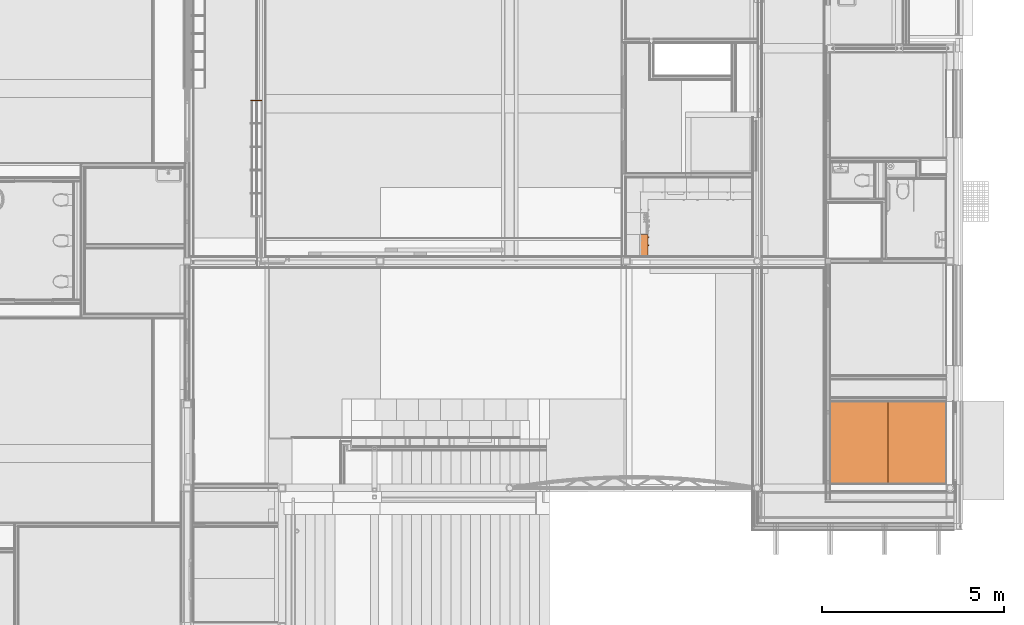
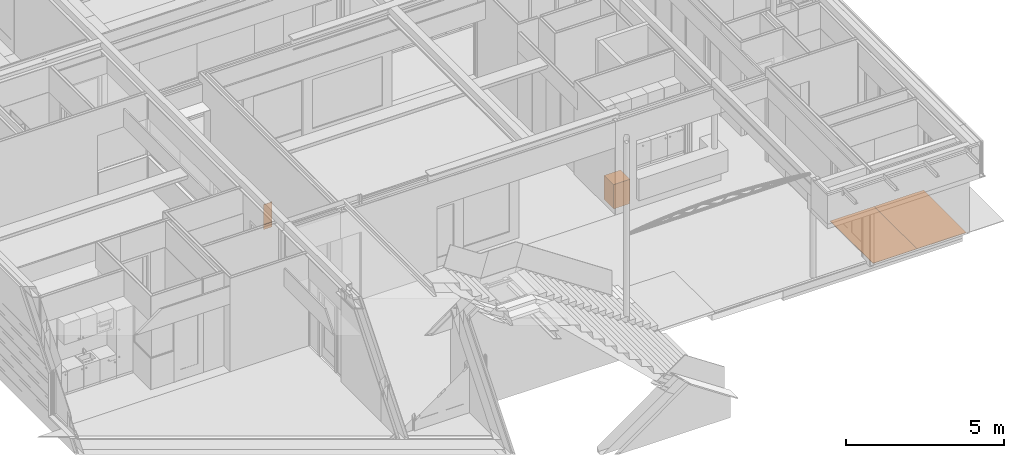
# One storey, part 152 of 165: 4 proxies.
"""IFC2X3 building model written with IfcOpenShell, lengths in millimetres."""

from ifc_helpers import new_model, entity, si_unit, converted_unit, derived_unit, money_unit, direction, frame, origin_with_axes, place, context, subcontext, project, spatial, faceted_brep, material, type_object, element, save


model = new_model("IFC2X3")

# Units and contexts
model_context = context("Model", 3, precision=0.01, world=origin_with_axes(), true_north=direction((0.0, 1.0)))
body_context = subcontext(model_context, "Body", "Model", "MODEL_VIEW")
ifc_project = project(units=[si_unit("LENGTHUNIT", "METRE", prefix="MILLI"), si_unit("AREAUNIT", "SQUARE_METRE"), si_unit("VOLUMEUNIT", "CUBIC_METRE"), converted_unit("PLANEANGLEUNIT", "DEGREE", entity("IfcPlaneAngleMeasure", 0.0174532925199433), si_unit("PLANEANGLEUNIT", "RADIAN"), dimensions=[0, 0, 0, 0, 0, 0, 0]), money_unit("EUR"), converted_unit("TIMEUNIT", "Year", entity("IfcTimeMeasure", 31556926.0), si_unit("TIMEUNIT", "SECOND"), dimensions=[0, 0, 1, 0, 0, 0, 0]), si_unit("MASSUNIT", "GRAM", prefix="KILO"), si_unit("THERMODYNAMICTEMPERATUREUNIT", "DEGREE_CELSIUS"), si_unit("LUMINOUSINTENSITYUNIT", "LUMEN"), si_unit("ENERGYUNIT", "JOULE", prefix="MEGA"), derived_unit("THERMALCONDUCTANCEUNIT", [(si_unit("POWERUNIT", "WATT"), 1), (si_unit("LENGTHUNIT", "METRE"), -1), (si_unit("THERMODYNAMICTEMPERATUREUNIT", "KELVIN"), -1)]), derived_unit("SPECIFICHEATCAPACITYUNIT", [(si_unit("ENERGYUNIT", "JOULE"), 1), (si_unit("MASSUNIT", "GRAM", prefix="KILO"), -1), (si_unit("THERMODYNAMICTEMPERATUREUNIT", "KELVIN"), -1)]), derived_unit("MASSDENSITYUNIT", [(si_unit("MASSUNIT", "GRAM", prefix="KILO"), 1), (si_unit("VOLUMEUNIT", "CUBIC_METRE"), -1)])], contexts=[model_context])

# Site, building, storey
site_placement = place(None, origin_with_axes())
site = spatial("IfcSite", under=ifc_project, at=site_placement, Name="Site", CompositionType="ELEMENT")
building_placement = place(site_placement, origin_with_axes())
building = spatial("IfcBuilding", under=site, at=building_placement, Name="Naam gebouw", CompositionType="ELEMENT")
storey_placement = place(building_placement, origin_with_axes())
storey = spatial("IfcBuildingStorey", under=building, at=storey_placement, Name="Begane grond", CompositionType="ELEMENT", Elevation=0.0)

# Proxies
ifc_material_1 = material(Name="Hout AFW")
building_element_proxy_type_1 = type_object("IfcBuildingElementProxyType", Name="Hout AFW 18", PredefinedType="NOTDEFINED")
proxy_1_placement = place(storey_placement, frame((10882.00000000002, 15235.00003229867, 200.0000000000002), z_axis=(0.0, 0.0, 1.0), x_axis=(-1.0, 0.0, 0.0)))
element("IfcBuildingElementProxy", 1, at=proxy_1_placement, inside=storey, type_object=building_element_proxy_type_1, material=ifc_material_1, Name="i HOUT_Wand-x", context=body_context, shape_type="Brep", body=[
    faceted_brep([(282.0, 0.0, 18.00000000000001), (282.0, 0.0, 200.0), (-18.00000000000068, 0.0, 200.0), (-18.00000000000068, 0.0, 18.00000000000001), (282.0, 18.00000000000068, 18.00000000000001), (282.0, 18.00000000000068, 200.0), (-18.00000000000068, 18.00000000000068, 200.0), (-18.00000000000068, 18.00000000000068, 18.00000000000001)], [[[0, 1, 2, 3]], [[4, 5, 1, 0]], [[5, 6, 2, 1]], [[3, 2, 6, 7]], [[4, 0, 3, 7]], [[7, 6, 5, 4]]]),
    faceted_brep([(-18.00000000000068, 18.00000000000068, 1000.0), (-18.00000000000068, 18.00000000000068, 218.0), (-18.00000000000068, 0.0, 218.0), (-18.00000000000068, 0.0, 1000.0), (282.0, 18.00000000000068, 982.0), (282.0, 18.00000000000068, 218.0), (0.0, 18.00000000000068, 1000.0), (0.0, 18.00000000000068, 982.0), (282.0, 0.0, 218.0), (282.0, 0.0, 982.0), (0.0, 0.0, 982.0), (0.0, 0.0, 1000.0)], [[[0, 1, 2, 3]], [[4, 5, 1, 0, 6, 7]], [[5, 8, 2, 1]], [[3, 2, 8, 9, 10, 11]], [[3, 11, 6, 0]], [[9, 8, 5, 4]], [[7, 6, 11, 10]], [[7, 10, 9, 4]]]),
])
building_element_proxy_type_2 = type_object("IfcBuildingElementProxyType", Name="Onderkast recht 26", PredefinedType="NOTDEFINED")
proxy_2_placement = place(storey_placement, frame((20900.00167438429, 10944.99881672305, 0.0), z_axis=(0.0, 0.0, 1.0), x_axis=(0.0, 1.0, 0.0)))
element("IfcBuildingElementProxy", 2, at=proxy_2_placement, inside=storey, type_object=building_element_proxy_type_2, Name="_Leeg", context=body_context, shape_type="Brep", body=[
    faceted_brep([(0.0, -600.0, 900.0), (600.0, -600.0, 900.0), (600.0, -600.0, 935.0), (0.0, -600.0, 935.0), (0.0, 0.0, 900.0), (600.0, 0.0, 900.0), (600.0, 0.0, 935.0), (0.0, 0.0, 935.0)], [[[0, 1, 2, 3]], [[0, 4, 5, 1]], [[1, 5, 6, 2]], [[3, 2, 6, 7]], [[4, 0, 3, 7]], [[5, 4, 7, 6]]]),
    faceted_brep([(18.0, -582.0, 420.5), (582.0, -582.0, 420.5), (582.0, -582.0, 438.5), (18.0, -582.0, 438.5), (18.0, -18.0, 420.5), (582.0, -18.0, 420.5), (582.0, -18.0, 438.5), (18.0, -18.0, 438.5)], [[[0, 1, 2, 3]], [[0, 4, 5, 1]], [[1, 5, 6, 2]], [[3, 2, 6, 7]], [[4, 0, 3, 7]], [[5, 4, 7, 6]]]),
    faceted_brep([(18.0, -582.0, 741.0), (582.0, -582.0, 741.0), (582.0, -582.0, 759.0), (18.0, -582.0, 759.0), (18.0, -18.0, 741.0), (582.0, -18.0, 741.0), (582.0, -18.0, 759.0), (18.0, -18.0, 759.0)], [[[0, 1, 2, 3]], [[0, 4, 5, 1]], [[1, 5, 6, 2]], [[3, 2, 6, 7]], [[4, 0, 3, 7]], [[5, 4, 7, 6]]]),
    faceted_brep([(577.0, -582.0, 764.0), (23.0, -582.0, 764.0), (23.0, -18.00000000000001, 764.0), (577.0, -18.00000000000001, 764.0), (577.0, -582.0, 774.0), (23.0, -582.0, 774.0), (23.0, -18.00000000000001, 774.0), (577.0, -18.00000000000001, 774.0)], [[[0, 1, 2, 3]], [[1, 0, 4, 5]], [[2, 1, 5, 6]], [[3, 2, 6, 7]], [[0, 3, 7, 4]], [[5, 4, 7, 6]]]),
    faceted_brep([(43.0, -582.0, 774.0), (23.0, -582.0, 774.0), (23.0, -18.00000000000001, 774.0), (43.0, -18.00000000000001, 774.0), (43.0, -582.0, 877.0000000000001), (23.0, -582.0, 877.0000000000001), (23.0, -18.00000000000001, 877.0000000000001), (43.0, -18.00000000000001, 877.0000000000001)], [[[0, 1, 2, 3]], [[1, 0, 4, 5]], [[2, 1, 5, 6]], [[3, 2, 6, 7]], [[0, 3, 7, 4]], [[5, 4, 7, 6]]]),
    faceted_brep([(577.0, -582.0, 774.0), (556.9999999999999, -582.0, 774.0), (556.9999999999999, -18.00000000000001, 774.0), (577.0, -18.00000000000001, 774.0), (577.0, -582.0, 877.0000000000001), (556.9999999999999, -582.0, 877.0000000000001), (556.9999999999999, -18.00000000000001, 877.0000000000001), (577.0, -18.00000000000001, 877.0000000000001)], [[[0, 1, 2, 3]], [[1, 0, 4, 5]], [[2, 1, 5, 6]], [[3, 2, 6, 7]], [[0, 3, 7, 4]], [[5, 4, 7, 6]]]),
    faceted_brep([(556.9999999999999, -33.00000000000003, 774.0), (43.0, -33.00000000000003, 774.0), (43.0, -23.00000000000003, 774.0), (556.9999999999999, -23.00000000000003, 774.0), (556.9999999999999, -33.00000000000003, 877.0000000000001), (43.0, -33.00000000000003, 877.0000000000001), (43.0, -23.00000000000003, 877.0000000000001), (556.9999999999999, -23.00000000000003, 877.0000000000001)], [[[0, 1, 2, 3]], [[1, 0, 4, 5]], [[2, 1, 5, 6]], [[3, 2, 6, 7]], [[0, 3, 7, 4]], [[5, 4, 7, 6]]]),
    faceted_brep([(533.1641574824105, -600.0, 668.2626863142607), (532.6227758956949, -600.0, 666.2422227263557), (531.7387692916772, -600.0, 664.3464644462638), (530.5389977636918, -600.0, 662.6330131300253), (529.0599157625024, -600.0, 661.153931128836), (527.346464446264, -600.0, 659.9541596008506), (525.4507061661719, -600.0, 659.0701529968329), (523.4302425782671, -600.0, 658.5287714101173), (521.346464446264, -600.0, 658.3464644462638), (519.2626863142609, -600.0, 658.5287714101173), (517.242222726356, -600.0, 659.0701529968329), (515.346464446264, -600.0, 659.9541596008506), (513.6330131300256, -600.0, 661.153931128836), (512.1539311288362, -600.0, 662.6330131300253), (510.9541596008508, -600.0, 664.3464644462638), (510.0701529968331, -600.0, 666.2422227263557), (509.5287714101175, -600.0, 668.2626863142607), (509.346464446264, -600.0, 670.3464644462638), (509.5287714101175, -600.0, 672.4302425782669), (510.0701529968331, -600.0, 674.4507061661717), (510.9541596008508, -600.0, 676.3464644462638), (512.1539311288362, -600.0, 678.0599157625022), (513.6330131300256, -600.0, 679.5389977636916), (515.346464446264, -600.0, 680.738769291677), (517.242222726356, -600.0, 681.6227758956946), (519.2626863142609, -600.0, 682.1641574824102), (521.346464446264, -600.0, 682.3464644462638), (523.4302425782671, -600.0, 682.1641574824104), (525.4507061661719, -600.0, 681.6227758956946), (527.346464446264, -600.0, 680.738769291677), (529.0599157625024, -600.0, 679.5389977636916), (530.5389977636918, -600.0, 678.0599157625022), (531.7387692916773, -600.0, 676.3464644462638), (532.6227758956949, -600.0, 674.4507061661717), (533.1641574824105, -600.0, 672.4302425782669), (533.346464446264, -600.0, 670.3464644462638), (533.1641574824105, -620.0, 668.2626863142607), (532.6227758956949, -620.0, 666.2422227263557), (531.7387692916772, -620.0, 664.3464644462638), (530.5389977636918, -620.0, 662.6330131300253), (529.0599157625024, -620.0, 661.153931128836), (527.346464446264, -620.0, 659.9541596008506), (525.4507061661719, -620.0, 659.0701529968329), (523.4302425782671, -620.0, 658.5287714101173), (521.346464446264, -620.0, 658.3464644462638), (519.2626863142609, -620.0, 658.5287714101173), (517.242222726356, -620.0, 659.0701529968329), (515.346464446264, -620.0, 659.9541596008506), (513.6330131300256, -620.0, 661.153931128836), (512.1539311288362, -620.0, 662.6330131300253), (510.9541596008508, -620.0, 664.3464644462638), (510.0701529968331, -620.0, 666.2422227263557), (509.5287714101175, -620.0, 668.2626863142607), (509.346464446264, -620.0, 670.3464644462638), (509.5287714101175, -620.0, 672.4302425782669), (510.0701529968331, -620.0, 674.4507061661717), (510.9541596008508, -620.0, 676.3464644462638), (512.1539311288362, -620.0, 678.0599157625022), (513.6330131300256, -620.0, 679.5389977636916), (515.346464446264, -620.0, 680.738769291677), (517.242222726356, -620.0, 681.6227758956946), (519.2626863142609, -620.0, 682.1641574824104), (521.346464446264, -620.0, 682.3464644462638), (523.4302425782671, -620.0, 682.1641574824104), (525.4507061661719, -620.0, 681.6227758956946), (527.346464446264, -620.0, 680.738769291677), (529.0599157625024, -620.0, 679.5389977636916), (530.5389977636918, -620.0, 678.0599157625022), (531.7387692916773, -620.0, 676.3464644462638), (532.6227758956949, -620.0, 674.4507061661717), (533.1641574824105, -620.0, 672.4302425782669), (533.346464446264, -620.0, 670.3464644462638)], [[[0, 1, 2, 3, 4, 5, 6, 7, 8, 9, 10, 11, 12, 13, 14, 15, 16, 17, 18, 19, 20, 21, 22, 23, 24, 25, 26, 27, 28, 29, 30, 31, 32, 33, 34, 35]], [[1, 0, 36, 37]], [[2, 1, 37, 38]], [[3, 2, 38, 39]], [[4, 3, 39, 40]], [[5, 4, 40, 41]], [[6, 5, 41, 42]], [[7, 6, 42, 43]], [[8, 7, 43, 44]], [[9, 8, 44, 45]], [[10, 9, 45, 46]], [[11, 10, 46, 47]], [[12, 11, 47, 48]], [[13, 12, 48, 49]], [[14, 13, 49, 50]], [[15, 14, 50, 51]], [[16, 15, 51, 52]], [[17, 16, 52, 53]], [[18, 17, 53, 54]], [[19, 18, 54, 55]], [[20, 19, 55, 56]], [[21, 20, 56, 57]], [[22, 21, 57, 58]], [[23, 22, 58, 59]], [[24, 23, 59, 60]], [[25, 24, 60, 61]], [[26, 25, 61, 62]], [[27, 26, 62, 63]], [[28, 27, 63, 64]], [[29, 28, 64, 65]], [[30, 29, 65, 66]], [[31, 30, 66, 67]], [[32, 31, 67, 68]], [[33, 32, 68, 69]], [[34, 33, 69, 70]], [[35, 34, 70, 71]], [[0, 35, 71, 36]], [[36, 71, 70, 69, 68, 67, 66, 65, 64, 63, 62, 61, 60, 59, 58, 57, 56, 55, 54, 53, 52, 51, 50, 49, 48, 47, 46, 45, 44, 43, 42, 41, 40, 39, 38, 37]]]),
    faceted_brep([(544.9818505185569, -620.0, 666.1789081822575), (543.8990873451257, -620.0, 662.1379810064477), (542.1310741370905, -620.0, 658.3464644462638), (539.7315310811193, -620.0, 654.9195618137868), (536.7733670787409, -620.0, 651.9613978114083), (533.346464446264, -620.0, 649.5618547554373), (529.5549478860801, -620.0, 647.793841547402), (525.5140207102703, -620.0, 646.7110783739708), (521.346464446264, -620.0, 646.3464644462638), (517.1789081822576, -620.0, 646.7110783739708), (513.137981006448, -620.0, 647.793841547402), (509.346464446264, -620.0, 649.5618547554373), (505.919561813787, -620.0, 651.9613978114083), (502.9613978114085, -620.0, 654.9195618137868), (500.5618547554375, -620.0, 658.3464644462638), (498.7938415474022, -620.0, 662.1379810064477), (497.711078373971, -620.0, 666.1789081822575), (497.346464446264, -620.0, 670.3464644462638), (497.711078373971, -620.0, 674.5140207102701), (498.7938415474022, -620.0, 678.5549478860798), (500.5618547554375, -620.0, 682.3464644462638), (502.9613978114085, -620.0, 685.7733670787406), (505.919561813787, -620.0, 688.7315310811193), (509.346464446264, -620.0, 691.1310741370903), (513.137981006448, -620.0, 692.8990873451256), (517.1789081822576, -620.0, 693.9818505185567), (521.346464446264, -620.0, 694.3464644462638), (525.5140207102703, -620.0, 693.9818505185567), (529.5549478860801, -620.0, 692.8990873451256), (533.346464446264, -620.0, 691.1310741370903), (536.7733670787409, -620.0, 688.7315310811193), (539.7315310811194, -620.0, 685.7733670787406), (542.1310741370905, -620.0, 682.3464644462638), (543.8990873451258, -620.0, 678.5549478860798), (544.9818505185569, -620.0, 674.5140207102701), (545.346464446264, -620.0, 670.3464644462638), (544.9818505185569, -630.0, 666.1789081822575), (543.8990873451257, -630.0, 662.1379810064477), (542.1310741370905, -630.0, 658.3464644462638), (539.7315310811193, -630.0, 654.9195618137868), (536.7733670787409, -630.0, 651.9613978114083), (533.346464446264, -630.0, 649.5618547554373), (529.5549478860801, -630.0, 647.793841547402), (525.5140207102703, -630.0, 646.7110783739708), (521.346464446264, -630.0, 646.3464644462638), (517.1789081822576, -630.0, 646.7110783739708), (513.137981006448, -630.0, 647.793841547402), (509.346464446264, -630.0, 649.5618547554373), (505.919561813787, -630.0, 651.9613978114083), (502.9613978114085, -630.0, 654.9195618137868), (500.5618547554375, -630.0, 658.3464644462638), (498.7938415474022, -630.0, 662.1379810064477), (497.711078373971, -630.0, 666.1789081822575), (497.346464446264, -630.0, 670.3464644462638), (497.711078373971, -630.0, 674.5140207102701), (498.7938415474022, -630.0, 678.5549478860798), (500.5618547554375, -630.0, 682.3464644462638), (502.9613978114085, -630.0, 685.7733670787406), (505.919561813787, -630.0, 688.7315310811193), (509.346464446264, -630.0, 691.1310741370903), (513.137981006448, -630.0, 692.8990873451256), (517.1789081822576, -630.0, 693.9818505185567), (521.346464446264, -630.0, 694.3464644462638), (525.5140207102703, -630.0, 693.9818505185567), (529.5549478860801, -630.0, 692.8990873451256), (533.346464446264, -630.0, 691.1310741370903), (536.7733670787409, -630.0, 688.7315310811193), (539.7315310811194, -630.0, 685.7733670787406), (542.1310741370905, -630.0, 682.3464644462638), (543.8990873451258, -630.0, 678.5549478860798), (544.9818505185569, -630.0, 674.5140207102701), (545.346464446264, -630.0, 670.3464644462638)], [[[0, 1, 2, 3, 4, 5, 6, 7, 8, 9, 10, 11, 12, 13, 14, 15, 16, 17, 18, 19, 20, 21, 22, 23, 24, 25, 26, 27, 28, 29, 30, 31, 32, 33, 34, 35]], [[1, 0, 36, 37]], [[2, 1, 37, 38]], [[3, 2, 38, 39]], [[4, 3, 39, 40]], [[5, 4, 40, 41]], [[6, 5, 41, 42]], [[7, 6, 42, 43]], [[8, 7, 43, 44]], [[9, 8, 44, 45]], [[10, 9, 45, 46]], [[11, 10, 46, 47]], [[12, 11, 47, 48]], [[13, 12, 48, 49]], [[14, 13, 49, 50]], [[15, 14, 50, 51]], [[16, 15, 51, 52]], [[17, 16, 52, 53]], [[18, 17, 53, 54]], [[19, 18, 54, 55]], [[20, 19, 55, 56]], [[21, 20, 56, 57]], [[22, 21, 57, 58]], [[23, 22, 58, 59]], [[24, 23, 59, 60]], [[25, 24, 60, 61]], [[26, 25, 61, 62]], [[27, 26, 62, 63]], [[28, 27, 63, 64]], [[29, 28, 64, 65]], [[30, 29, 65, 66]], [[31, 30, 66, 67]], [[32, 31, 67, 68]], [[33, 32, 68, 69]], [[34, 33, 69, 70]], [[35, 34, 70, 71]], [[0, 35, 71, 36]], [[36, 71, 70, 69, 68, 67, 66, 65, 64, 63, 62, 61, 60, 59, 58, 57, 56, 55, 54, 53, 52, 51, 50, 49, 48, 47, 46, 45, 44, 43, 42, 41, 40, 39, 38, 37]]]),
    faceted_brep([(1.0, -582.0, 101.0), (599.0, -582.0, 101.0), (599.0, -600.0, 101.0), (1.0, -600.0, 101.0), (1.0, -582.0, 749.0), (599.0, -582.0, 749.0), (599.0, -599.9999999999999, 749.0), (1.0, -599.9999999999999, 749.0)], [[[0, 1, 2, 3]], [[0, 4, 5, 1]], [[1, 5, 6, 2]], [[3, 2, 6, 7]], [[4, 0, 3, 7]], [[5, 4, 7, 6]]]),
    faceted_brep([(311.8176930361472, -600.0, 817.916221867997), (311.2763114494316, -600.0, 815.8957582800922), (310.3923048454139, -600.0, 814.0000000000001), (309.1925333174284, -600.0, 812.2865486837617), (307.7134513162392, -600.0, 810.8074666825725), (306.0000000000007, -600.0, 809.607695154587), (304.1042417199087, -600.0, 808.7236885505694), (302.0837781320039, -600.0, 808.1823069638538), (300.0000000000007, -600.0, 808.0000000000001), (297.9162218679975, -600.0, 808.1823069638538), (295.8957582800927, -600.0, 808.7236885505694), (294.0000000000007, -600.0, 809.607695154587), (292.2865486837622, -600.0, 810.8074666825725), (290.807466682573, -600.0, 812.2865486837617), (289.6076951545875, -600.0, 814.0000000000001), (288.7236885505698, -600.0, 815.8957582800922), (288.1823069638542, -600.0, 817.916221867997), (288.0000000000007, -600.0, 820.0000000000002), (288.1823069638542, -600.0, 822.0837781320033), (288.7236885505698, -600.0, 824.1042417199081), (289.6076951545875, -600.0, 826.0000000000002), (290.807466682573, -600.0, 827.7134513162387), (292.2865486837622, -600.0, 829.1925333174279), (294.0000000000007, -600.0, 830.3923048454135), (295.8957582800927, -600.0, 831.2763114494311), (297.9162218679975, -600.0, 831.8176930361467), (300.0000000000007, -600.0, 832.0000000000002), (302.0837781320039, -600.0, 831.8176930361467), (304.1042417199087, -600.0, 831.2763114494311), (306.0000000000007, -600.0, 830.3923048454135), (307.7134513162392, -600.0, 829.1925333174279), (309.1925333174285, -600.0, 827.7134513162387), (310.3923048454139, -600.0, 826.0000000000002), (311.2763114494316, -600.0, 824.1042417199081), (311.8176930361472, -600.0, 822.0837781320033), (312.0000000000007, -600.0, 820.0000000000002), (311.8176930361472, -620.0, 817.916221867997), (311.2763114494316, -620.0, 815.8957582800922), (310.3923048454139, -620.0, 814.0000000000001), (309.1925333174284, -620.0, 812.2865486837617), (307.7134513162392, -620.0, 810.8074666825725), (306.0000000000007, -620.0, 809.607695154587), (304.1042417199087, -620.0, 808.7236885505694), (302.0837781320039, -620.0, 808.1823069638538), (300.0000000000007, -620.0, 808.0000000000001), (297.9162218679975, -620.0, 808.1823069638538), (295.8957582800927, -620.0, 808.7236885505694), (294.0000000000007, -620.0, 809.607695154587), (292.2865486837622, -620.0, 810.8074666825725), (290.807466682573, -620.0, 812.2865486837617), (289.6076951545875, -620.0, 814.0000000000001), (288.7236885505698, -620.0, 815.8957582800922), (288.1823069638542, -620.0, 817.916221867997), (288.0000000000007, -620.0, 820.0000000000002), (288.1823069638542, -620.0, 822.0837781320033), (288.7236885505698, -620.0, 824.1042417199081), (289.6076951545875, -620.0, 826.0000000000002), (290.807466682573, -620.0, 827.7134513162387), (292.2865486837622, -620.0, 829.1925333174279), (294.0000000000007, -620.0, 830.3923048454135), (295.8957582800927, -620.0, 831.2763114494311), (297.9162218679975, -620.0, 831.8176930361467), (300.0000000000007, -620.0, 832.0000000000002), (302.0837781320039, -620.0, 831.8176930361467), (304.1042417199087, -620.0, 831.2763114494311), (306.0000000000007, -620.0, 830.3923048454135), (307.7134513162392, -620.0, 829.1925333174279), (309.1925333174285, -620.0, 827.7134513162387), (310.3923048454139, -620.0, 826.0000000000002), (311.2763114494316, -620.0, 824.1042417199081), (311.8176930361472, -620.0, 822.0837781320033), (312.0000000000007, -620.0, 820.0000000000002)], [[[0, 1, 2, 3, 4, 5, 6, 7, 8, 9, 10, 11, 12, 13, 14, 15, 16, 17, 18, 19, 20, 21, 22, 23, 24, 25, 26, 27, 28, 29, 30, 31, 32, 33, 34, 35]], [[1, 0, 36, 37]], [[2, 1, 37, 38]], [[3, 2, 38, 39]], [[4, 3, 39, 40]], [[5, 4, 40, 41]], [[6, 5, 41, 42]], [[7, 6, 42, 43]], [[8, 7, 43, 44]], [[9, 8, 44, 45]], [[10, 9, 45, 46]], [[11, 10, 46, 47]], [[12, 11, 47, 48]], [[13, 12, 48, 49]], [[14, 13, 49, 50]], [[15, 14, 50, 51]], [[16, 15, 51, 52]], [[17, 16, 52, 53]], [[18, 17, 53, 54]], [[19, 18, 54, 55]], [[20, 19, 55, 56]], [[21, 20, 56, 57]], [[22, 21, 57, 58]], [[23, 22, 58, 59]], [[24, 23, 59, 60]], [[25, 24, 60, 61]], [[26, 25, 61, 62]], [[27, 26, 62, 63]], [[28, 27, 63, 64]], [[29, 28, 64, 65]], [[30, 29, 65, 66]], [[31, 30, 66, 67]], [[32, 31, 67, 68]], [[33, 32, 68, 69]], [[34, 33, 69, 70]], [[35, 34, 70, 71]], [[0, 35, 71, 36]], [[36, 71, 70, 69, 68, 67, 66, 65, 64, 63, 62, 61, 60, 59, 58, 57, 56, 55, 54, 53, 52, 51, 50, 49, 48, 47, 46, 45, 44, 43, 42, 41, 40, 39, 38, 37]]]),
    faceted_brep([(323.6353860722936, -620.0, 815.8324437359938), (322.5526228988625, -620.0, 811.7915165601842), (320.7846096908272, -620.0, 808.0000000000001), (318.3850666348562, -620.0, 804.5730973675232), (315.4269026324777, -620.0, 801.6149333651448), (312.0000000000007, -620.0, 799.2153903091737), (308.2084834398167, -620.0, 797.4473771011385), (304.167556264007, -620.0, 796.3646139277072), (300.0000000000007, -620.0, 796.0000000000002), (295.8324437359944, -620.0, 796.3646139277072), (291.7915165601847, -620.0, 797.4473771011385), (288.0000000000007, -620.0, 799.2153903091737), (284.5730973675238, -620.0, 801.6149333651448), (281.6149333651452, -620.0, 804.5730973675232), (279.2153903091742, -620.0, 808.0000000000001), (277.4473771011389, -620.0, 811.7915165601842), (276.3646139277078, -620.0, 815.8324437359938), (276.0000000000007, -620.0, 820.0000000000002), (276.3646139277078, -620.0, 824.1675562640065), (277.4473771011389, -620.0, 828.2084834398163), (279.2153903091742, -620.0, 832.0000000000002), (281.6149333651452, -620.0, 835.4269026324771), (284.5730973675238, -620.0, 838.3850666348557), (288.0000000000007, -620.0, 840.7846096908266), (291.7915165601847, -620.0, 842.5526228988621), (295.8324437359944, -620.0, 843.6353860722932), (300.0000000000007, -620.0, 844.0000000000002), (304.167556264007, -620.0, 843.6353860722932), (308.2084834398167, -620.0, 842.5526228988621), (312.0000000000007, -620.0, 840.7846096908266), (315.4269026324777, -620.0, 838.3850666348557), (318.3850666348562, -620.0, 835.4269026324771), (320.7846096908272, -620.0, 832.0000000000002), (322.5526228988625, -620.0, 828.2084834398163), (323.6353860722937, -620.0, 824.1675562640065), (324.0000000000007, -620.0, 820.0000000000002), (323.6353860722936, -630.0, 815.8324437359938), (322.5526228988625, -630.0, 811.7915165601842), (320.7846096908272, -630.0, 808.0000000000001), (318.3850666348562, -630.0, 804.5730973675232), (315.4269026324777, -630.0, 801.6149333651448), (312.0000000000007, -630.0, 799.2153903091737), (308.2084834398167, -630.0, 797.4473771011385), (304.167556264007, -630.0, 796.3646139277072), (300.0000000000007, -630.0, 796.0000000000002), (295.8324437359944, -630.0, 796.3646139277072), (291.7915165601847, -630.0, 797.4473771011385), (288.0000000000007, -630.0, 799.2153903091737), (284.5730973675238, -630.0, 801.6149333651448), (281.6149333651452, -630.0, 804.5730973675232), (279.2153903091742, -630.0, 808.0000000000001), (277.4473771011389, -630.0, 811.7915165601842), (276.3646139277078, -630.0, 815.8324437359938), (276.0000000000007, -630.0, 820.0000000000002), (276.3646139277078, -630.0, 824.1675562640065), (277.4473771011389, -630.0, 828.2084834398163), (279.2153903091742, -630.0, 832.0000000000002), (281.6149333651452, -630.0, 835.4269026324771), (284.5730973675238, -630.0, 838.3850666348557), (288.0000000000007, -630.0, 840.7846096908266), (291.7915165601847, -630.0, 842.5526228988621), (295.8324437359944, -630.0, 843.6353860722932), (300.0000000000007, -630.0, 844.0000000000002), (304.167556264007, -630.0, 843.6353860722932), (308.2084834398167, -630.0, 842.5526228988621), (312.0000000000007, -630.0, 840.7846096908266), (315.4269026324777, -630.0, 838.3850666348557), (318.3850666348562, -630.0, 835.4269026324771), (320.7846096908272, -630.0, 832.0000000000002), (322.5526228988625, -630.0, 828.2084834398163), (323.6353860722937, -630.0, 824.1675562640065), (324.0000000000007, -630.0, 820.0000000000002)], [[[0, 1, 2, 3, 4, 5, 6, 7, 8, 9, 10, 11, 12, 13, 14, 15, 16, 17, 18, 19, 20, 21, 22, 23, 24, 25, 26, 27, 28, 29, 30, 31, 32, 33, 34, 35]], [[1, 0, 36, 37]], [[2, 1, 37, 38]], [[3, 2, 38, 39]], [[4, 3, 39, 40]], [[5, 4, 40, 41]], [[6, 5, 41, 42]], [[7, 6, 42, 43]], [[8, 7, 43, 44]], [[9, 8, 44, 45]], [[10, 9, 45, 46]], [[11, 10, 46, 47]], [[12, 11, 47, 48]], [[13, 12, 48, 49]], [[14, 13, 49, 50]], [[15, 14, 50, 51]], [[16, 15, 51, 52]], [[17, 16, 52, 53]], [[18, 17, 53, 54]], [[19, 18, 54, 55]], [[20, 19, 55, 56]], [[21, 20, 56, 57]], [[22, 21, 57, 58]], [[23, 22, 58, 59]], [[24, 23, 59, 60]], [[25, 24, 60, 61]], [[26, 25, 61, 62]], [[27, 26, 62, 63]], [[28, 27, 63, 64]], [[29, 28, 64, 65]], [[30, 29, 65, 66]], [[31, 30, 66, 67]], [[32, 31, 67, 68]], [[33, 32, 68, 69]], [[34, 33, 69, 70]], [[35, 34, 70, 71]], [[0, 35, 71, 36]], [[36, 71, 70, 69, 68, 67, 66, 65, 64, 63, 62, 61, 60, 59, 58, 57, 56, 55, 54, 53, 52, 51, 50, 49, 48, 47, 46, 45, 44, 43, 42, 41, 40, 39, 38, 37]]]),
    faceted_brep([(1.0, -582.0, 751.0), (599.0, -582.0, 751.0), (599.0, -600.0, 751.0), (1.0, -600.0, 751.0), (1.0, -582.0, 899.0), (599.0, -582.0, 899.0), (599.0, -600.0, 899.0), (1.0, -600.0, 899.0)], [[[0, 1, 2, 3]], [[0, 4, 5, 1]], [[1, 5, 6, 2]], [[3, 2, 6, 7]], [[4, 0, 3, 7]], [[5, 4, 7, 6]]]),
    faceted_brep([(18.0, -582.0, 100.0), (582.0, -582.0, 100.0), (582.0, -582.0, 118.0), (18.0, -582.0, 118.0), (18.0, 0.0, 100.0), (582.0, 0.0, 100.0), (582.0, 0.0, 118.0), (18.0, 0.0, 118.0)], [[[0, 1, 2, 3]], [[0, 4, 5, 1]], [[1, 5, 6, 2]], [[3, 2, 6, 7]], [[4, 0, 3, 7]], [[5, 4, 7, 6]]]),
    faceted_brep([(18.0, -582.0, 882.0), (18.0, -522.0, 882.0), (582.0, -522.0, 882.0), (582.0, -582.0, 882.0), (18.0, -582.0, 900.0), (18.0, -522.0, 900.0), (582.0, -522.0, 900.0), (582.0, -582.0, 900.0)], [[[0, 1, 2, 3]], [[0, 4, 5, 1]], [[1, 5, 6, 2]], [[3, 2, 6, 7]], [[4, 0, 3, 7]], [[5, 4, 7, 6]]]),
    faceted_brep([(582.0, 0.0, 882.0), (582.0, -60.0, 882.0), (18.0, -60.0, 882.0), (18.0, 0.0, 882.0), (582.0, 0.0, 900.0), (582.0, -60.0, 900.0), (18.0, -60.0, 900.0), (18.0, 0.0, 900.0)], [[[0, 1, 2, 3]], [[0, 4, 5, 1]], [[1, 5, 6, 2]], [[3, 2, 6, 7]], [[4, 0, 3, 7]], [[5, 4, 7, 6]]]),
    faceted_brep([(0.0, 0.0, 100.0), (0.0, -582.0, 100.0), (0.0, -582.0, 900.0), (0.0, 0.0, 900.0), (18.0, 0.0, 100.0), (18.0, -582.0, 100.0), (18.0, -582.0, 900.0), (18.0, 0.0, 900.0)], [[[0, 1, 2, 3]], [[0, 4, 5, 1]], [[1, 5, 6, 2]], [[3, 2, 6, 7]], [[4, 0, 3, 7]], [[5, 4, 7, 6]]]),
    faceted_brep([(600.0, -582.0, 100.0), (600.0, 0.0, 100.0), (600.0, 0.0, 900.0), (600.0, -582.0, 900.0), (582.0, -582.0, 100.0), (582.0, 0.0, 100.0), (582.0, 0.0, 900.0), (582.0, -582.0, 900.0)], [[[0, 1, 2, 3]], [[0, 4, 5, 1]], [[1, 5, 6, 2]], [[3, 2, 6, 7]], [[4, 0, 3, 7]], [[5, 4, 7, 6]]]),
    faceted_brep([(582.0, -9.0, 118.0), (18.00000000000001, -9.0, 118.0), (18.00000000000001, -9.0, 882.0), (582.0, -9.0, 882.0), (582.0, -18.0, 118.0), (18.00000000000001, -18.0, 118.0), (18.00000000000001, -18.0, 882.0), (582.0, -18.0, 882.0)], [[[0, 1, 2, 3]], [[0, 4, 5, 1]], [[1, 5, 6, 2]], [[3, 2, 6, 7]], [[4, 0, 3, 7]], [[5, 4, 7, 6]]]),
    faceted_brep([(0.0, -582.0, 0.0), (600.0, -582.0, 0.0), (600.0, -582.0, 100.0), (0.0, -582.0, 100.0), (0.0, 0.0, 0.0), (600.0, 0.0, 0.0), (600.0, 0.0, 100.0), (0.0, 0.0, 100.0)], [[[0, 1, 2, 3]], [[0, 4, 5, 1]], [[1, 5, 6, 2]], [[3, 2, 6, 7]], [[4, 0, 3, 7]], [[5, 4, 7, 6]]]),
])
ifc_material_2 = material(Name="Vloerafwerking - schoonloopzone 2")
building_element_proxy_type_3 = type_object("IfcBuildingElementProxyType", Name="Vloerafwerking - schoonloopzone 2 15", PredefinedType="NOTDEFINED")
proxy_3_placement = place(storey_placement, frame((29900.0, 6948.997857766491, -10.0), z_axis=(0.0, 0.0, 1.0), x_axis=(1.0, 0.0, 0.0)))
element("IfcBuildingElementProxy", 3, at=proxy_3_placement, inside=storey, type_object=building_element_proxy_type_3, material=ifc_material_2, Name="_43 schoonloop zone 2", context=body_context, shape_type="Brep", body=[
    faceted_brep([(0.0, 0.0, 15.0), (0.0, 0.0, 0.0), (-1801.499999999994, 0.0, 0.0), (-1801.499999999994, 0.0, 15.0), (0.0, -2698.997882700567, 15.0), (0.0, -2698.997882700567, 0.0), (-1801.499999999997, -2698.997882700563, 0.0), (-1801.499999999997, -2698.997882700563, 15.0)], [[[0, 1, 2, 3]], [[4, 5, 1, 0]], [[2, 1, 5, 6]], [[3, 2, 6, 7]], [[4, 0, 3, 7]], [[7, 6, 5, 4]]]),
])
ifc_material_3 = material(Name="Vloerafwerking - schoonloopzone 3")
building_element_proxy_type_4 = type_object("IfcBuildingElementProxyType", Name="Vloerafwerking - schoonloopzone 3 15", PredefinedType="NOTDEFINED")
proxy_4_placement = place(storey_placement, frame((28098.50004309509, 6949.997883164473, -10.0), z_axis=(0.0, 0.0, 1.0), x_axis=(1.0, 0.0, 0.0)))
element("IfcBuildingElementProxy", 4, at=proxy_4_placement, inside=storey, type_object=building_element_proxy_type_4, material=ifc_material_3, Name="_schoonloop zone 3", context=body_context, shape_type="Brep", body=[
    faceted_brep([(0.0, 0.0, 15.0), (0.0, 0.0, 0.0), (-1602.500032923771, 2.795948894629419e-05, 0.0), (-1602.500032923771, 2.795948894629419e-05, 15.0), (-4.710799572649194e-05, -2699.997908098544, 15.0), (-4.710799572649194e-05, -2699.997908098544, 0.0), (-1602.500080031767, -2699.997880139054, 0.0), (-1602.500080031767, -2699.997880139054, 15.0)], [[[0, 1, 2, 3]], [[4, 5, 1, 0]], [[2, 1, 5, 6]], [[3, 2, 6, 7]], [[4, 0, 3, 7]], [[7, 6, 5, 4]]]),
])

save(model, "model.ifc")
